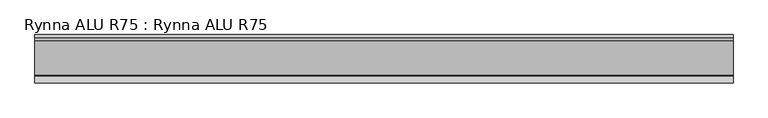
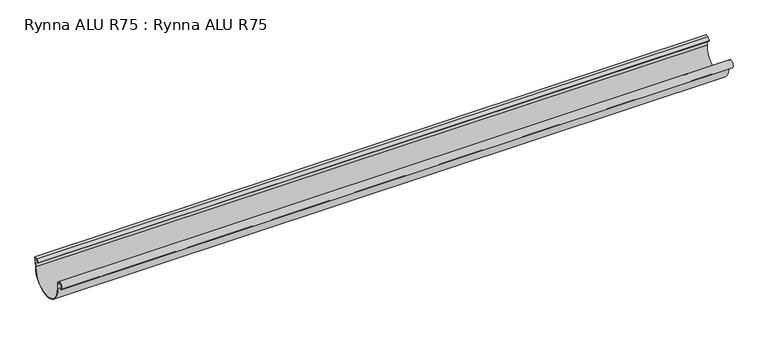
"""IFC4 building model written with IfcOpenShell, lengths in millimetres: proxy geometry, Rynna ALU R75 : Rynna ALU R75."""

from ifc_helpers import new_model, si_unit, point, frame, frame_2d, origin, place, context, project, spatial, polyline, circle_curve, trimmed, segment, composite_curve, outline, extrude, source, transform, mapped, element, save


def rynna_alu_r75_rynna_alu_r75_ab9fa133(model_context):
    return source(origin(), model_context, "Body", "SweptSolid", [
        extrude(outline(composite_curve([segment(polyline([(-77.0000001, -18.8928858), (-77.0000001, -9.298839)]), True, "CONTINUOUS"), segment(trimmed(circle_curve(frame_2d((-83.065591, -8.6518374)), 6.1000004), [point((-77.0000001, -9.298839))], [point((-86.1676128, -13.9042145))], True, "CARTESIAN"), True, "CONTINUOUS"), segment(polyline([(-86.1676128, -13.9042145), (-86.1676128, -15.0383413)]), True, "CONTINUOUS"), segment(trimmed(circle_curve(frame_2d((-83.0655965, -8.651839)), 7.0999941), [point((-86.1676128, -15.0383413))], [point((-76.0000118, -9.3500002))], False, "CARTESIAN"), True, "CONTINUOUS"), segment(polyline([(-76.0000118, -9.3500002), (-76.0000118, -18.8754102)]), True, "CONTINUOUS"), segment(trimmed(circle_curve(frame_2d((-39.5000101, -18.8754102)), 36.5000017), [point((-76.0000118, -18.8754102))], [point((-3.0000084, -18.8754102))], True, "CARTESIAN"), True, "CONTINUOUS"), segment(polyline([(-3.0000084, -18.8754102), (-1.1093439, -0.9821469)]), True, "CONTINUOUS"), segment(trimmed(circle_curve(frame_2d((-0.8393369, -17.5562346)), 16.5762868), [point((-1.1093439, -0.9821469))], [point((-4.8989693, -1.4847483))], True, "CARTESIAN"), True, "CONTINUOUS"), segment(polyline([(-4.8989693, -1.4847483), (-10.02274, -6.608519), (-10.7298468, -5.9014122), (-5.4142136, -0.585779)]), True, "CONTINUOUS"), segment(trimmed(circle_curve(frame_2d((-0.8393369, -17.5562346)), 17.5762868), [point((-5.4142136, -0.585779))], [point((0.0, 0.0))], False, "CARTESIAN"), True, "CONTINUOUS"), segment(polyline([(0.0, 0.0), (-2.0, -18.8928858)]), True, "CONTINUOUS"), segment(trimmed(circle_curve(frame_2d((-39.5, -18.8928858)), 37.5), [point((-2.0, -18.8928858))], [point((-77.0000001, -18.8928858))], False, "CARTESIAN"), True, "CONTINUOUS")], self_intersect=False)), frame((-648.8270827, 0.0, 0.0), z_axis=(1.0, 0.0, 0.0), x_axis=(0.0, 1.0, 0.0)), (0.0, 0.0, 1.0), 1297.6541655),
    ])


if __name__ == "__main__":
    model = new_model("IFC4")
    model_context = context("Model", 3, world=origin())
    ifc_project = project(units=[si_unit("LENGTHUNIT", "METRE", prefix="MILLI")], contexts=[model_context])
    site = spatial("IfcSite", under=ifc_project)
    building = spatial("IfcBuilding", under=site)
    placement = place(None, origin())
    rynna_alu_r75_rynna_alu_r75_shape = rynna_alu_r75_rynna_alu_r75_ab9fa133(model_context)
    element("IfcBuildingElementProxy", 1, Name="Rynna ALU R75 : Rynna ALU R75", ObjectType="Rynna ALU R75 : Rynna ALU R75", at=placement, inside=building, context=model_context, shape_type="MappedRepresentation", body=[
        mapped(rynna_alu_r75_rynna_alu_r75_shape, transform((0.0, 0.0, 0.0), x_axis=(1.0, 0.0, 0.0), y_axis=(0.0, 1.0, 0.0), z_axis=(0.0, 0.0, 1.0))),
    ])
    save(model, "model.ifc")
